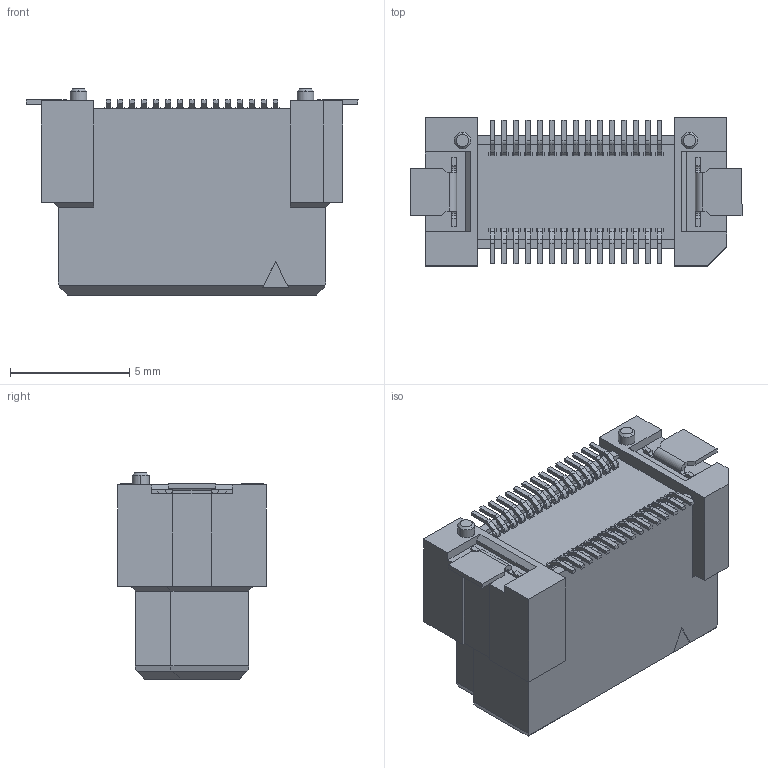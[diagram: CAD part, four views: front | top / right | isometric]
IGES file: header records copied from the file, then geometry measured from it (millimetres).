
Start section: Elysium IGES Interface
Global section: file name: 80HC:\Users\1502\Desktop\DT_webリニューアル\プラグ\ボス有\P3D070_DT11-030S-10-T.igs; native system: Creo Elements/Direct Modeling 19.0F  14-Feb-2017; preprocessor: Creo Element/Direct IGES_3D V2.2; author: Unknown; organization: Unknown; date: 20170811.102554; units: millimetre
Bounding box: 13.9 x 6.2 x 8.63 mm (x, y, z)
Volume: 416.8 mm3; surface area: 690.5 mm2
Topology: 1 solids, 1 shells, 1161 faces, 3142 edges, 2048 vertices
Faces by surface type: bspline 1161
